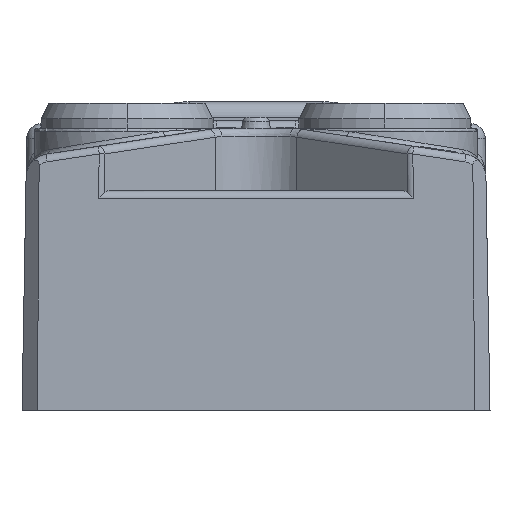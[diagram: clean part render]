
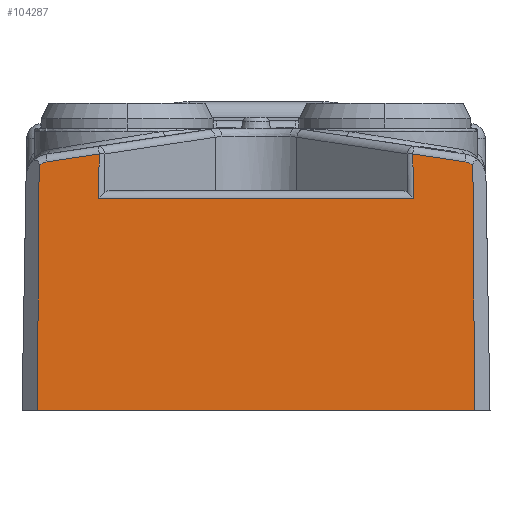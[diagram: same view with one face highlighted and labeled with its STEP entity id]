
A CAD part, front view. The second image highlights one B-rep face of the part: STEP entity #104287.
In plain terms, the highlighted planar face has unit normal (0, -1, 0.018).
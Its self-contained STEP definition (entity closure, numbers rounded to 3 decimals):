
#2158 = CARTESIAN_POINT ( 'NONE',  ( 13.701, -10.944, 14.935 ) ) ;
#2783 = CARTESIAN_POINT ( 'NONE',  ( 13.741, -10.944, 14.911 ) ) ;
#2966 = VECTOR ( 'NONE', #133244, 1000. ) ;
#4071 = CARTESIAN_POINT ( 'NONE',  ( 13.634, -10.943, 14.97 ) ) ;
#7205 = AXIS2_PLACEMENT_3D ( 'NONE', #67451, #68096, #69403 ) ;
#7639 = VERTEX_POINT ( 'NONE', #148010 ) ;
#8688 = LINE ( 'NONE', #120988, #32108 ) ;
#11298 = VERTEX_POINT ( 'NONE', #61737 ) ;
#11529 = CARTESIAN_POINT ( 'NONE',  ( 10.03, -10.933, 15.558 ) ) ;
#12210 = LINE ( 'NONE', #116996, #135712 ) ;
#13537 = ORIENTED_EDGE ( 'NONE', *, *, #62465, .T. ) ;
#16107 = B_SPLINE_CURVE_WITH_KNOTS ( 'NONE', 3,
 ( #63276, #78291, #92026, #167546, #182550, #122594, #153159, #47055, #93311, #4071, #152528, #121316, #63932, #2158, #76350, #2783, #123236, #62635, #108287 ),
 .UNSPECIFIED., .F., .F.,
 ( 4, 2, 1, 1, 1, 2, 2, 2, 2, 2, 4 ),
 ( 0., 0.25, 0.375, 0.437, 0.469, 0.484, 0.5, 0.625, 0.687, 0.75, 1. ),
 .UNSPECIFIED. ) ;
#17941 = CARTESIAN_POINT ( 'NONE',  ( 13.874, -10.946, 14.811 ) ) ;
#19303 = VECTOR ( 'NONE', #55736, 1000. ) ;
#27609 = ORIENTED_EDGE ( 'NONE', *, *, #98177, .F. ) ;
#32108 = VECTOR ( 'NONE', #76026, 1000. ) ;
#36641 = VECTOR ( 'NONE', #87495, 1000. ) ;
#42699 = CARTESIAN_POINT ( 'NONE',  ( -10.03, -10.933, 15.558 ) ) ;
#43422 = EDGE_CURVE ( 'NONE', #7639, #83516, #70839, .T. ) ;
#45097 = CARTESIAN_POINT ( 'NONE',  ( -13.726, -10.944, 14.942 ) ) ;
#47055 = CARTESIAN_POINT ( 'NONE',  ( 13.624, -10.943, 14.974 ) ) ;
#50039 = DIRECTION ( 'NONE',  ( -0.007, -0.017, -1. ) ) ;
#53618 = EDGE_CURVE ( 'NONE', #116141, #169272, #59989, .T. ) ;
#54058 = DIRECTION ( 'NONE',  ( -0.989, 0.003, 0.15 ) ) ;
#55736 = DIRECTION ( 'NONE',  ( -0.989, -0.003, -0.15 ) ) ;
#57664 = DIRECTION ( 'NONE',  ( -1., 0., 0. ) ) ;
#58141 = CARTESIAN_POINT ( 'NONE',  ( 0., -11.219, -0.85 ) ) ;
#59989 = LINE ( 'NONE', #17941, #102099 ) ;
#61644 = VERTEX_POINT ( 'NONE', #104802 ) ;
#61737 = CARTESIAN_POINT ( 'NONE',  ( 10.08, -10.983, 12.709 ) ) ;
#62465 = EDGE_CURVE ( 'NONE', #11298, #180719, #12210, .T. ) ;
#62635 = CARTESIAN_POINT ( 'NONE',  ( 13.864, -10.946, 14.819 ) ) ;
#63276 = CARTESIAN_POINT ( 'NONE',  ( 13.359, -10.942, 15.052 ) ) ;
#63932 = CARTESIAN_POINT ( 'NONE',  ( 13.689, -10.944, 14.942 ) ) ;
#64124 = CARTESIAN_POINT ( 'NONE',  ( 10.03, -10.933, 15.558 ) ) ;
#67451 = CARTESIAN_POINT ( 'NONE',  ( -17.613, -11.25, -2.6 ) ) ;
#68096 = DIRECTION ( 'NONE',  ( 0., -1., 0.017 ) ) ;
#69028 = CARTESIAN_POINT ( 'NONE',  ( -13.874, -10.946, 14.811 ) ) ;
#69168 = ORIENTED_EDGE ( 'NONE', *, *, #43422, .T. ) ;
#69403 = DIRECTION ( 'NONE',  ( 0., -0.017, -1. ) ) ;
#69866 = ORIENTED_EDGE ( 'NONE', *, *, #139782, .T. ) ;
#70839 = B_SPLINE_CURVE_WITH_KNOTS ( 'NONE', 3,
 ( #163003, #88750, #45097, #149904 ),
 .UNSPECIFIED., .F., .F.,
 ( 4, 4 ),
 ( 0., 1. ),
 .UNSPECIFIED. ) ;
#74892 = ORIENTED_EDGE ( 'NONE', *, *, #88141, .T. ) ;
#76026 = DIRECTION ( 'NONE',  ( 0.017, 0.017, 1. ) ) ;
#76350 = CARTESIAN_POINT ( 'NONE',  ( 13.728, -10.944, 14.919 ) ) ;
#78291 = CARTESIAN_POINT ( 'NONE',  ( 13.407, -10.942, 15.045 ) ) ;
#83516 = VERTEX_POINT ( 'NONE', #69028 ) ;
#87495 = DIRECTION ( 'NONE',  ( -1., 0., 0. ) ) ;
#88141 = EDGE_CURVE ( 'NONE', #122647, #11298, #110070, .T. ) ;
#88750 = CARTESIAN_POINT ( 'NONE',  ( -13.555, -10.942, 15.022 ) ) ;
#91055 = EDGE_CURVE ( 'NONE', #83516, #114244, #154137, .T. ) ;
#92026 = CARTESIAN_POINT ( 'NONE',  ( 13.454, -10.942, 15.034 ) ) ;
#93311 = CARTESIAN_POINT ( 'NONE',  ( 13.629, -10.943, 14.972 ) ) ;
#93907 = CARTESIAN_POINT ( 'NONE',  ( -10.08, -10.983, 12.709 ) ) ;
#94999 = CARTESIAN_POINT ( 'NONE',  ( -13.874, -10.946, 14.811 ) ) ;
#98113 = PLANE ( 'NONE',  #7205 ) ;
#98177 = EDGE_CURVE ( 'NONE', #169272, #114244, #146139, .T. ) ;
#98536 = FACE_OUTER_BOUND ( 'NONE', #105156, .T. ) ;
#100496 = VECTOR ( 'NONE', #50039, 1000. ) ;
#101715 = EDGE_CURVE ( 'NONE', #138795, #116141, #16107, .T. ) ;
#102099 = VECTOR ( 'NONE', #135814, 1000. ) ;
#104287 = ADVANCED_FACE ( 'NONE', ( #98536 ), #98113, .T. ) ;
#104400 = EDGE_CURVE ( 'NONE', #61644, #7639, #140522, .T. ) ;
#104789 = ORIENTED_EDGE ( 'NONE', *, *, #147537, .T. ) ;
#104802 = CARTESIAN_POINT ( 'NONE',  ( -10.03, -10.933, 15.558 ) ) ;
#105156 = EDGE_LOOP ( 'NONE', ( #69168, #142881, #27609, #141877, #147282, #104789, #74892, #13537, #69866, #178138 ) ) ;
#108287 = CARTESIAN_POINT ( 'NONE',  ( 13.874, -10.946, 14.811 ) ) ;
#110070 = LINE ( 'NONE', #11529, #2966 ) ;
#114244 = VERTEX_POINT ( 'NONE', #128165 ) ;
#116141 = VERTEX_POINT ( 'NONE', #168769 ) ;
#116996 = CARTESIAN_POINT ( 'NONE',  ( -17.613, -10.983, 12.709 ) ) ;
#120382 = LINE ( 'NONE', #130240, #129725 ) ;
#120988 = CARTESIAN_POINT ( 'NONE',  ( -10.08, -10.983, 12.709 ) ) ;
#121316 = CARTESIAN_POINT ( 'NONE',  ( 13.658, -10.944, 14.959 ) ) ;
#122594 = CARTESIAN_POINT ( 'NONE',  ( 13.596, -10.943, 14.986 ) ) ;
#122647 = VERTEX_POINT ( 'NONE', #64124 ) ;
#123236 = CARTESIAN_POINT ( 'NONE',  ( 13.829, -10.945, 14.853 ) ) ;
#128165 = CARTESIAN_POINT ( 'NONE',  ( -13.987, -11.219, -0.85 ) ) ;
#129238 = CARTESIAN_POINT ( 'NONE',  ( 13.987, -11.219, -0.85 ) ) ;
#129725 = VECTOR ( 'NONE', #54058, 1000. ) ;
#129808 = CARTESIAN_POINT ( 'NONE',  ( 13.359, -10.942, 15.052 ) ) ;
#130240 = CARTESIAN_POINT ( 'NONE',  ( 13.359, -10.942, 15.052 ) ) ;
#133244 = DIRECTION ( 'NONE',  ( 0.017, -0.017, -1. ) ) ;
#135712 = VECTOR ( 'NONE', #57664, 1000. ) ;
#135814 = DIRECTION ( 'NONE',  ( 0.007, -0.017, -1. ) ) ;
#138795 = VERTEX_POINT ( 'NONE', #129808 ) ;
#139782 = EDGE_CURVE ( 'NONE', #180719, #61644, #8688, .T. ) ;
#140522 = LINE ( 'NONE', #42699, #19303 ) ;
#141877 = ORIENTED_EDGE ( 'NONE', *, *, #53618, .F. ) ;
#142881 = ORIENTED_EDGE ( 'NONE', *, *, #91055, .T. ) ;
#146139 = LINE ( 'NONE', #58141, #36641 ) ;
#147282 = ORIENTED_EDGE ( 'NONE', *, *, #101715, .F. ) ;
#147537 = EDGE_CURVE ( 'NONE', #138795, #122647, #120382, .T. ) ;
#148010 = CARTESIAN_POINT ( 'NONE',  ( -13.359, -10.942, 15.052 ) ) ;
#149904 = CARTESIAN_POINT ( 'NONE',  ( -13.874, -10.946, 14.811 ) ) ;
#152528 = CARTESIAN_POINT ( 'NONE',  ( 13.643, -10.943, 14.966 ) ) ;
#153159 = CARTESIAN_POINT ( 'NONE',  ( 13.615, -10.943, 14.978 ) ) ;
#154137 = LINE ( 'NONE', #94999, #100496 ) ;
#163003 = CARTESIAN_POINT ( 'NONE',  ( -13.359, -10.942, 15.052 ) ) ;
#167546 = CARTESIAN_POINT ( 'NONE',  ( 13.523, -10.943, 15.013 ) ) ;
#168769 = CARTESIAN_POINT ( 'NONE',  ( 13.874, -10.946, 14.811 ) ) ;
#169272 = VERTEX_POINT ( 'NONE', #129238 ) ;
#178138 = ORIENTED_EDGE ( 'NONE', *, *, #104400, .T. ) ;
#180719 = VERTEX_POINT ( 'NONE', #93907 ) ;
#182550 = CARTESIAN_POINT ( 'NONE',  ( 13.557, -10.943, 15.002 ) ) ;
